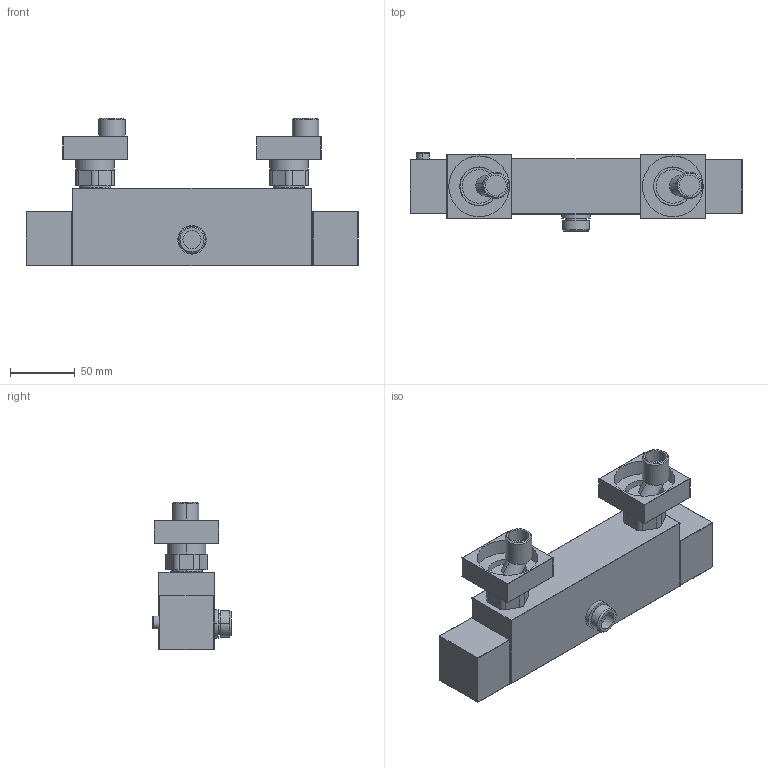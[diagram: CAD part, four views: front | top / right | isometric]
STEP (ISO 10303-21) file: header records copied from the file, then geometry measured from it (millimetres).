
FILE_DESCRIPTION (( 'STEP AP203' ), '1' );
FILE_NAME ('ETQ24.STEP', '2025-01-07T07:25:30', ( '' ), ( '' ), 'SwSTEP 2.0', 'SolidWorks 2023', '' );
FILE_SCHEMA (( 'CONFIG_CONTROL_DESIGN' ));
Length unit declared in the file: millimetre
Products named in the file (6): CORPO DOCCIA TERMOSTATICO QUADRO; RONDG2417; CONFROMBGQ; ETQ24; ECCENTRICI; CONFROSOMBGQ
Assembly tree (6 placements, depth 3):
  ETQ24
    CORPO DOCCIA TERMOSTATICO QUADRO
    CONFROMBGQ  x2
      CONFROSOMBGQ
      ECCENTRICI
      RONDG2417
Bounding box: 257 x 60.5 x 114 mm (x, y, z)
Volume: 689864.5 mm3; surface area: 99429.4 mm2
Topology: 7 solids, 7 shells, 257 faces, 562 edges, 312 vertices
Faces by surface type: cylinder 126, plane 75, sphere 32, torus 10, cone 10, bspline 4
Entity records: 6225 total; most frequent: CARTESIAN_POINT 1182, DIRECTION 1035, ORIENTED_EDGE 830, AXIS2_PLACEMENT_3D 423, EDGE_CURVE 415, VERTEX_POINT 244, EDGE_LOOP 225, CIRCLE 215
